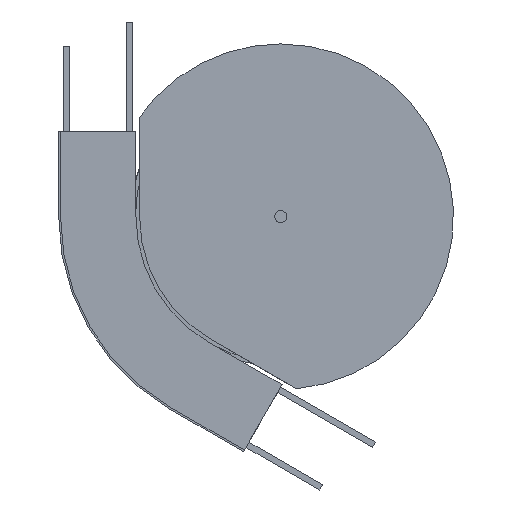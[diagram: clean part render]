
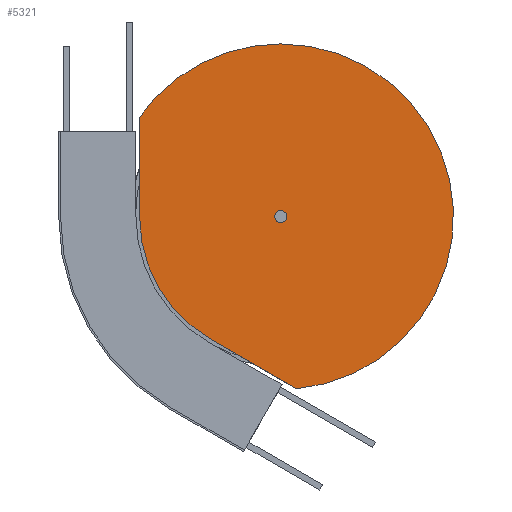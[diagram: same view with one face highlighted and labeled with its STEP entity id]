
A CAD part, front view. The second image highlights one B-rep face of the part: STEP entity #5321.
In plain terms, the highlighted planar face has unit normal (0, -1, 0).
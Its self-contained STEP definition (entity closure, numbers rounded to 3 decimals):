
#183 = ORIENTED_EDGE ( 'NONE', *, *, #4590, .F. ) ;
#231 = CARTESIAN_POINT ( 'NONE',  ( 150., -38.75, 72. ) ) ;
#242 = AXIS2_PLACEMENT_3D ( 'NONE', #5675, #1733, #2568 ) ;
#494 = AXIS2_PLACEMENT_3D ( 'NONE', #749, #1186, #5140 ) ;
#550 = ORIENTED_EDGE ( 'NONE', *, *, #5529, .T. ) ;
#609 = VERTEX_POINT ( 'NONE', #1941 ) ;
#660 = VECTOR ( 'NONE', #3460, 1000. ) ;
#749 = CARTESIAN_POINT ( 'NONE',  ( 150., -38.75, -70. ) ) ;
#817 = AXIS2_PLACEMENT_3D ( 'NONE', #4565, #3707, #4653 ) ;
#852 = ORIENTED_EDGE ( 'NONE', *, *, #4104, .F. ) ;
#860 = AXIS2_PLACEMENT_3D ( 'NONE', #4871, #1819, #2653 ) ;
#984 = VERTEX_POINT ( 'NONE', #4220 ) ;
#1012 = CARTESIAN_POINT ( 'NONE',  ( 150., -38.75, -70. ) ) ;
#1082 = LINE ( 'NONE', #4628, #3288 ) ;
#1186 = DIRECTION ( 'NONE',  ( 0., -1., 0. ) ) ;
#1283 = CIRCLE ( 'NONE', #494, 5. ) ;
#1474 = PLANE ( 'NONE',  #817 ) ;
#1733 = DIRECTION ( 'NONE',  ( 0., -1., 0. ) ) ;
#1819 = DIRECTION ( 'NONE',  ( 0., 1., 0. ) ) ;
#1820 = LINE ( 'NONE', #4771, #660 ) ;
#1911 = DIRECTION ( 'NONE',  ( 0., 0., 1. ) ) ;
#1941 = CARTESIAN_POINT ( 'NONE',  ( 34., -38.75, 11.902 ) ) ;
#2101 = FACE_BOUND ( 'NONE', #3947, .T. ) ;
#2109 = EDGE_LOOP ( 'NONE', ( #550, #183, #852, #2285, #4231 ) ) ;
#2159 = DIRECTION ( 'NONE',  ( 0., 0., 1. ) ) ;
#2285 = ORIENTED_EDGE ( 'NONE', *, *, #5678, .F. ) ;
#2568 = DIRECTION ( 'NONE',  ( 0., 0., -1. ) ) ;
#2653 = DIRECTION ( 'NONE',  ( 0., 0., 1. ) ) ;
#2894 = AXIS2_PLACEMENT_3D ( 'NONE', #1012, #5041, #1911 ) ;
#3030 = CIRCLE ( 'NONE', #2894, 5. ) ;
#3168 = VERTEX_POINT ( 'NONE', #5636 ) ;
#3288 = VECTOR ( 'NONE', #5455, 1000. ) ;
#3460 = DIRECTION ( 'NONE',  ( -0.866, 0., 0.5 ) ) ;
#3497 = CARTESIAN_POINT ( 'NONE',  ( 150., -38.75, -75. ) ) ;
#3707 = DIRECTION ( 'NONE',  ( 0., 1., 0. ) ) ;
#3895 = AXIS2_PLACEMENT_3D ( 'NONE', #4420, #4841, #2159 ) ;
#3947 = EDGE_LOOP ( 'NONE', ( #4778, #4903 ) ) ;
#4058 = VERTEX_POINT ( 'NONE', #4813 ) ;
#4104 = EDGE_CURVE ( 'NONE', #5391, #5687, #5595, .T. ) ;
#4220 = CARTESIAN_POINT ( 'NONE',  ( 34., -38.75, -70. ) ) ;
#4231 = ORIENTED_EDGE ( 'NONE', *, *, #5234, .F. ) ;
#4420 = CARTESIAN_POINT ( 'NONE',  ( 150., -38.75, -70. ) ) ;
#4513 = VERTEX_POINT ( 'NONE', #3497 ) ;
#4517 = FACE_OUTER_BOUND ( 'NONE', #2109, .T. ) ;
#4565 = CARTESIAN_POINT ( 'NONE',  ( 34., -38.75, -70. ) ) ;
#4590 = EDGE_CURVE ( 'NONE', #5687, #4058, #1820, .T. ) ;
#4628 = CARTESIAN_POINT ( 'NONE',  ( 34., -38.75, -70. ) ) ;
#4653 = DIRECTION ( 'NONE',  ( 0., 0., -1. ) ) ;
#4679 = EDGE_CURVE ( 'NONE', #4513, #3168, #3030, .T. ) ;
#4771 = CARTESIAN_POINT ( 'NONE',  ( 92., -38.75, -170.459 ) ) ;
#4778 = ORIENTED_EDGE ( 'NONE', *, *, #5324, .F. ) ;
#4813 = CARTESIAN_POINT ( 'NONE',  ( 92., -38.75, -170.459 ) ) ;
#4841 = DIRECTION ( 'NONE',  ( 0., 1., 0. ) ) ;
#4871 = CARTESIAN_POINT ( 'NONE',  ( 150., -38.75, -70. ) ) ;
#4903 = ORIENTED_EDGE ( 'NONE', *, *, #4679, .F. ) ;
#5007 = CIRCLE ( 'NONE', #242, 116. ) ;
#5041 = DIRECTION ( 'NONE',  ( 0., -1., 0. ) ) ;
#5140 = DIRECTION ( 'NONE',  ( 0., 0., 1. ) ) ;
#5234 = EDGE_CURVE ( 'NONE', #984, #609, #1082, .T. ) ;
#5321 = ADVANCED_FACE ( 'NONE', ( #2101, #4517 ), #1474, .F. ) ;
#5324 = EDGE_CURVE ( 'NONE', #3168, #4513, #1283, .T. ) ;
#5391 = VERTEX_POINT ( 'NONE', #231 ) ;
#5455 = DIRECTION ( 'NONE',  ( 0., 0., 1. ) ) ;
#5529 = EDGE_CURVE ( 'NONE', #984, #4058, #5007, .T. ) ;
#5569 = CIRCLE ( 'NONE', #860, 142. ) ;
#5595 = CIRCLE ( 'NONE', #3895, 142. ) ;
#5636 = CARTESIAN_POINT ( 'NONE',  ( 150., -38.75, -65. ) ) ;
#5675 = CARTESIAN_POINT ( 'NONE',  ( 150., -38.75, -70. ) ) ;
#5678 = EDGE_CURVE ( 'NONE', #609, #5391, #5569, .T. ) ;
#5687 = VERTEX_POINT ( 'NONE', #5751 ) ;
#5751 = CARTESIAN_POINT ( 'NONE',  ( 162.93, -38.75, -211.41 ) ) ;
